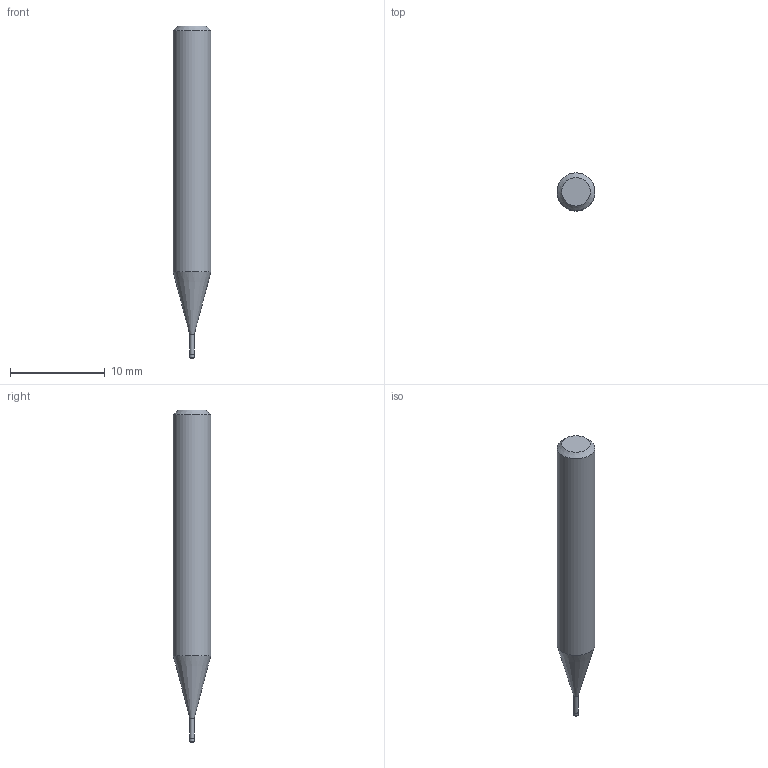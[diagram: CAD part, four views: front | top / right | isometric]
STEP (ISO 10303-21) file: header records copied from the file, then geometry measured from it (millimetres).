
FILE_DESCRIPTION((''),'2;1');
FILE_NAME('C:\Users\nsx150\AppData\Local\Temp\Mastercam 2021\80JYEHYUML\TEMP.step','2022-03-29T14:35:19',(''),(''),'STEP Write','Mastercam 2021 ... CNC Software, Inc.','');
FILE_SCHEMA(('AUTOMOTIVE_DESIGN'));
Length unit declared in the file: millimetre
Products named in the file (1): None
Bounding box: 4 x 4 x 35 mm (x, y, z)
Volume: 355.6 mm3; surface area: 386.1 mm2
Topology: 2 solids, 2 shells, 10 faces, 14 edges, 8 vertices
Faces by surface type: plane 4, cylinder 3, cone 2, torus 1
Full cylindrical faces by diameter (mm): 0.46 x1, 0.5 x1, 4 x1
Entity records: 232 total; most frequent: DIRECTION 40, CARTESIAN_POINT 28, AXIS2_PLACEMENT_3D 20, ORIENTED_EDGE 16, EDGE_LOOP 16, STYLED_ITEM 13, ADVANCED_FACE 10, FACE_BOUND 10
